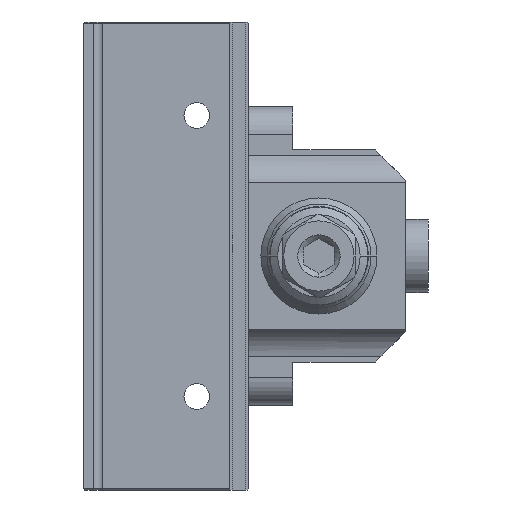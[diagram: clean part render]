
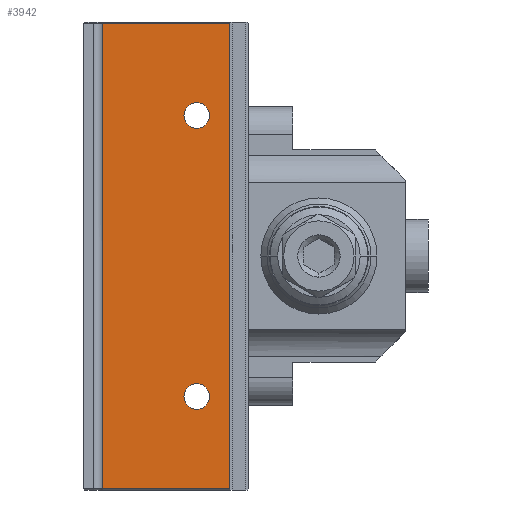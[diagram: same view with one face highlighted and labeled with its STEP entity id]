
A CAD part, left-side view. The second image highlights one B-rep face of the part: STEP entity #3942.
In plain terms, the highlighted planar face has unit normal (-1, 0, 0).
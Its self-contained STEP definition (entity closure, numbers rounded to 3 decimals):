
#109 = CARTESIAN_POINT ( 'NONE',  ( -11.5, 20., -23. ) ) ;
#110 = DIRECTION ( 'NONE',  ( 0., 0., 1. ) ) ;
#158 = DIRECTION ( 'NONE',  ( 0., 0., 1. ) ) ;
#197 = LINE ( 'NONE', #6607, #6849 ) ;
#370 = VECTOR ( 'NONE', #2334, 1000. ) ;
#376 = ORIENTED_EDGE ( 'NONE', *, *, #5910, .F. ) ;
#380 = LINE ( 'NONE', #6760, #7419 ) ;
#491 = LINE ( 'NONE', #7674, #370 ) ;
#644 = PLANE ( 'NONE',  #5517 ) ;
#813 = CARTESIAN_POINT ( 'NONE',  ( -11.5, 14.7, 38.1 ) ) ;
#840 = AXIS2_PLACEMENT_3D ( 'NONE', #5727, #6889, #5022 ) ;
#848 = EDGE_CURVE ( 'NONE', #7523, #4582, #4180, .T. ) ;
#1162 = DIRECTION ( 'NONE',  ( -1., 0., 0. ) ) ;
#1276 = DIRECTION ( 'NONE',  ( 0., 0., 1. ) ) ;
#1355 = DIRECTION ( 'NONE',  ( -1., 0., 0. ) ) ;
#1478 = CARTESIAN_POINT ( 'NONE',  ( -11.5, 20., -23. ) ) ;
#1568 = ORIENTED_EDGE ( 'NONE', *, *, #5298, .F. ) ;
#1741 = AXIS2_PLACEMENT_3D ( 'NONE', #6099, #1355, #110 ) ;
#1974 = VERTEX_POINT ( 'NONE', #5034 ) ;
#2205 = EDGE_LOOP ( 'NONE', ( #1568, #3741 ) ) ;
#2334 = DIRECTION ( 'NONE',  ( 0., 1., 0. ) ) ;
#2345 = CARTESIAN_POINT ( 'NONE',  ( -11.5, 20., -20.9 ) ) ;
#2566 = CARTESIAN_POINT ( 'NONE',  ( -11.5, 35.5, -38.1 ) ) ;
#2611 = EDGE_CURVE ( 'NONE', #7452, #5718, #491, .T. ) ;
#2695 = EDGE_LOOP ( 'NONE', ( #376, #3143, #7359, #6152 ) ) ;
#2706 = AXIS2_PLACEMENT_3D ( 'NONE', #1478, #6877, #6305 ) ;
#2891 = CARTESIAN_POINT ( 'NONE',  ( -11.5, 14.7, -38.1 ) ) ;
#3102 = ORIENTED_EDGE ( 'NONE', *, *, #7131, .F. ) ;
#3143 = ORIENTED_EDGE ( 'NONE', *, *, #2611, .T. ) ;
#3249 = DIRECTION ( 'NONE',  ( -1., 0., 0. ) ) ;
#3385 = CARTESIAN_POINT ( 'NONE',  ( -11.5, 35.5, 38.1 ) ) ;
#3566 = FACE_BOUND ( 'NONE', #4285, .T. ) ;
#3645 = FACE_OUTER_BOUND ( 'NONE', #2695, .T. ) ;
#3678 = CARTESIAN_POINT ( 'NONE',  ( -11.5, 20., 20.9 ) ) ;
#3741 = ORIENTED_EDGE ( 'NONE', *, *, #6200, .F. ) ;
#3861 = CIRCLE ( 'NONE', #1741, 2.1 ) ;
#3913 = DIRECTION ( 'NONE',  ( 0., 0., -1. ) ) ;
#3942 = ADVANCED_FACE ( 'NONE', ( #3645, #6030, #3566 ), #644, .T. ) ;
#4180 = LINE ( 'NONE', #6087, #4264 ) ;
#4264 = VECTOR ( 'NONE', #4297, 1000. ) ;
#4285 = EDGE_LOOP ( 'NONE', ( #3102, #7039 ) ) ;
#4297 = DIRECTION ( 'NONE',  ( 0., -1., 0. ) ) ;
#4470 = AXIS2_PLACEMENT_3D ( 'NONE', #109, #1162, #1276 ) ;
#4582 = VERTEX_POINT ( 'NONE', #2891 ) ;
#4778 = CARTESIAN_POINT ( 'NONE',  ( -11.5, 20., -25.1 ) ) ;
#4824 = DIRECTION ( 'NONE',  ( 0., 0., -1. ) ) ;
#4908 = VERTEX_POINT ( 'NONE', #2345 ) ;
#5022 = DIRECTION ( 'NONE',  ( 0., 0., 1. ) ) ;
#5034 = CARTESIAN_POINT ( 'NONE',  ( -11.5, 20., 25.1 ) ) ;
#5298 = EDGE_CURVE ( 'NONE', #1974, #5386, #5878, .T. ) ;
#5346 = CIRCLE ( 'NONE', #4470, 2.1 ) ;
#5367 = EDGE_CURVE ( 'NONE', #5423, #4908, #5346, .T. ) ;
#5386 = VERTEX_POINT ( 'NONE', #3678 ) ;
#5423 = VERTEX_POINT ( 'NONE', #4778 ) ;
#5517 = AXIS2_PLACEMENT_3D ( 'NONE', #6064, #3249, #158 ) ;
#5718 = VERTEX_POINT ( 'NONE', #3385 ) ;
#5727 = CARTESIAN_POINT ( 'NONE',  ( -11.5, 20., 23. ) ) ;
#5878 = CIRCLE ( 'NONE', #840, 2.1 ) ;
#5910 = EDGE_CURVE ( 'NONE', #7452, #4582, #197, .T. ) ;
#6030 = FACE_BOUND ( 'NONE', #2205, .T. ) ;
#6060 = CIRCLE ( 'NONE', #2706, 2.1 ) ;
#6064 = CARTESIAN_POINT ( 'NONE',  ( -11.5, 4.25, 24.4 ) ) ;
#6087 = CARTESIAN_POINT ( 'NONE',  ( -11.5, 4.25, -38.1 ) ) ;
#6099 = CARTESIAN_POINT ( 'NONE',  ( -11.5, 20., 23. ) ) ;
#6152 = ORIENTED_EDGE ( 'NONE', *, *, #848, .T. ) ;
#6200 = EDGE_CURVE ( 'NONE', #5386, #1974, #3861, .T. ) ;
#6305 = DIRECTION ( 'NONE',  ( 0., 0., 1. ) ) ;
#6607 = CARTESIAN_POINT ( 'NONE',  ( -11.5, 14.7, 38.3 ) ) ;
#6760 = CARTESIAN_POINT ( 'NONE',  ( -11.5, 35.5, 38.3 ) ) ;
#6849 = VECTOR ( 'NONE', #4824, 1000. ) ;
#6877 = DIRECTION ( 'NONE',  ( -1., 0., 0. ) ) ;
#6889 = DIRECTION ( 'NONE',  ( -1., 0., 0. ) ) ;
#7039 = ORIENTED_EDGE ( 'NONE', *, *, #5367, .F. ) ;
#7055 = EDGE_CURVE ( 'NONE', #5718, #7523, #380, .T. ) ;
#7131 = EDGE_CURVE ( 'NONE', #4908, #5423, #6060, .T. ) ;
#7359 = ORIENTED_EDGE ( 'NONE', *, *, #7055, .T. ) ;
#7419 = VECTOR ( 'NONE', #3913, 1000. ) ;
#7452 = VERTEX_POINT ( 'NONE', #813 ) ;
#7523 = VERTEX_POINT ( 'NONE', #2566 ) ;
#7674 = CARTESIAN_POINT ( 'NONE',  ( -11.5, 4.25, 38.1 ) ) ;
